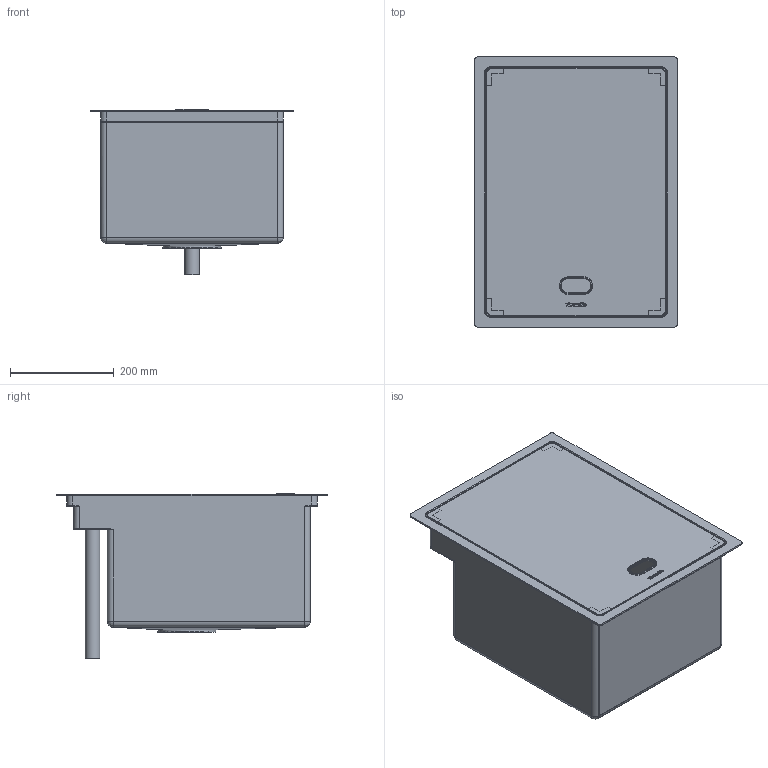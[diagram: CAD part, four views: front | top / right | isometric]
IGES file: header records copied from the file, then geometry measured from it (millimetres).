
Global section: file name: SA3-MCt.1; native system: unknown; preprocessor: unknown; author: unknown; organization: unknown; date: 20260225.160435; units: millimetre
Bounding box: 390 x 520 x 319 mm (x, y, z)
Volume: 1286629 mm3; surface area: 1662211.7 mm2
Topology: 14 solids, 14 shells, 613 faces, 1512 edges, 955 vertices
Faces by surface type: bspline 613
